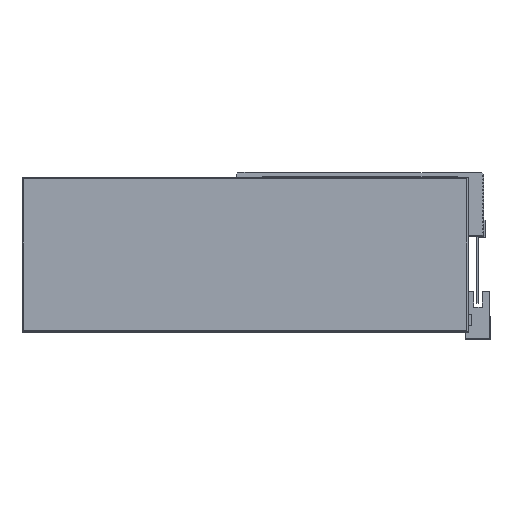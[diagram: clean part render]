
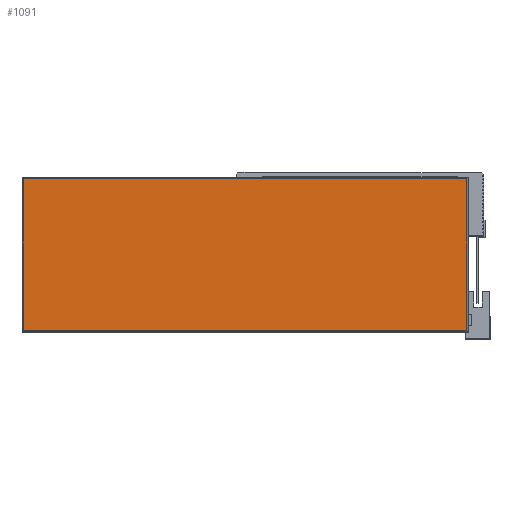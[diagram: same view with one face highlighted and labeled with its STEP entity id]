
A CAD part, top view. The second image highlights one B-rep face of the part: STEP entity #1091.
In plain terms, the highlighted planar face has unit normal (0, 0, 1) as drawn and (0, 0, -1) by its records, which use the part's own axes.
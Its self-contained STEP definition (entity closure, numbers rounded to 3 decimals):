
#1091 = ADVANCED_FACE ( 'NONE', ( #106708 ), #4418, .F. ) ;
#1690 = CARTESIAN_POINT ( 'NONE',  ( 0., 0., -1. ) ) ;
#4418 = PLANE ( 'NONE',  #37200 ) ;
#23605 = LINE ( 'NONE', #134593, #82950 ) ;
#24638 = DIRECTION ( 'NONE',  ( 0., 1., 0. ) ) ;
#25262 = EDGE_CURVE ( 'NONE', #90764, #134023, #26579, .T. ) ;
#26579 = LINE ( 'NONE', #54339, #82642 ) ;
#34604 = EDGE_CURVE ( 'NONE', #134023, #77642, #126179, .T. ) ;
#36528 = VECTOR ( 'NONE', #24638, 1000. ) ;
#37200 = AXIS2_PLACEMENT_3D ( 'NONE', #1690, #130972, #130054 ) ;
#40125 = DIRECTION ( 'NONE',  ( -1., 0., 0. ) ) ;
#43441 = EDGE_CURVE ( 'NONE', #77642, #60082, #23605, .T. ) ;
#43944 = ORIENTED_EDGE ( 'NONE', *, *, #56343, .T. ) ;
#45058 = DIRECTION ( 'NONE',  ( 1., 0., 0. ) ) ;
#46584 = CARTESIAN_POINT ( 'NONE',  ( -126.25, -43.75, -1. ) ) ;
#48781 = CARTESIAN_POINT ( 'NONE',  ( 126.25, 43.75, -1. ) ) ;
#54339 = CARTESIAN_POINT ( 'NONE',  ( -126.25, 43.75, -1. ) ) ;
#56343 = EDGE_CURVE ( 'NONE', #60082, #90764, #95871, .T. ) ;
#56763 = CARTESIAN_POINT ( 'NONE',  ( -126.25, 43.75, -1. ) ) ;
#59371 = ORIENTED_EDGE ( 'NONE', *, *, #34604, .T. ) ;
#59748 = ORIENTED_EDGE ( 'NONE', *, *, #43441, .T. ) ;
#60082 = VERTEX_POINT ( 'NONE', #46584 ) ;
#70179 = VECTOR ( 'NONE', #110955, 1000. ) ;
#77156 = CARTESIAN_POINT ( 'NONE',  ( -126.25, 43.75, -1. ) ) ;
#77642 = VERTEX_POINT ( 'NONE', #112521 ) ;
#82642 = VECTOR ( 'NONE', #45058, 1000. ) ;
#82950 = VECTOR ( 'NONE', #40125, 1000. ) ;
#90764 = VERTEX_POINT ( 'NONE', #56763 ) ;
#95871 = LINE ( 'NONE', #77156, #36528 ) ;
#106708 = FACE_OUTER_BOUND ( 'NONE', #111821, .T. ) ;
#110955 = DIRECTION ( 'NONE',  ( 0., -1., 0. ) ) ;
#111821 = EDGE_LOOP ( 'NONE', ( #43944, #112093, #59371, #59748 ) ) ;
#112093 = ORIENTED_EDGE ( 'NONE', *, *, #25262, .T. ) ;
#112521 = CARTESIAN_POINT ( 'NONE',  ( 126.25, -43.75, -1. ) ) ;
#126179 = LINE ( 'NONE', #131287, #70179 ) ;
#130054 = DIRECTION ( 'NONE',  ( 1., 0., 0. ) ) ;
#130972 = DIRECTION ( 'NONE',  ( 0., 0., 1. ) ) ;
#131287 = CARTESIAN_POINT ( 'NONE',  ( 126.25, 43.75, -1. ) ) ;
#134023 = VERTEX_POINT ( 'NONE', #48781 ) ;
#134593 = CARTESIAN_POINT ( 'NONE',  ( -126.25, -43.75, -1. ) ) ;
